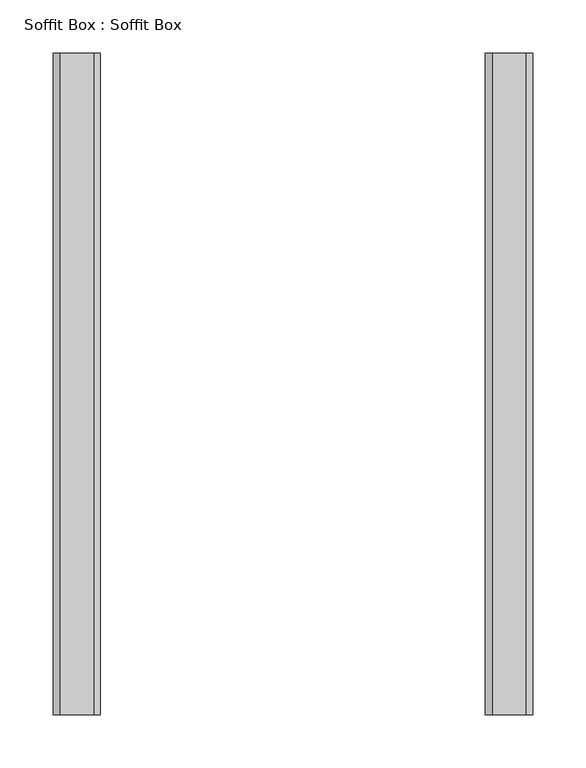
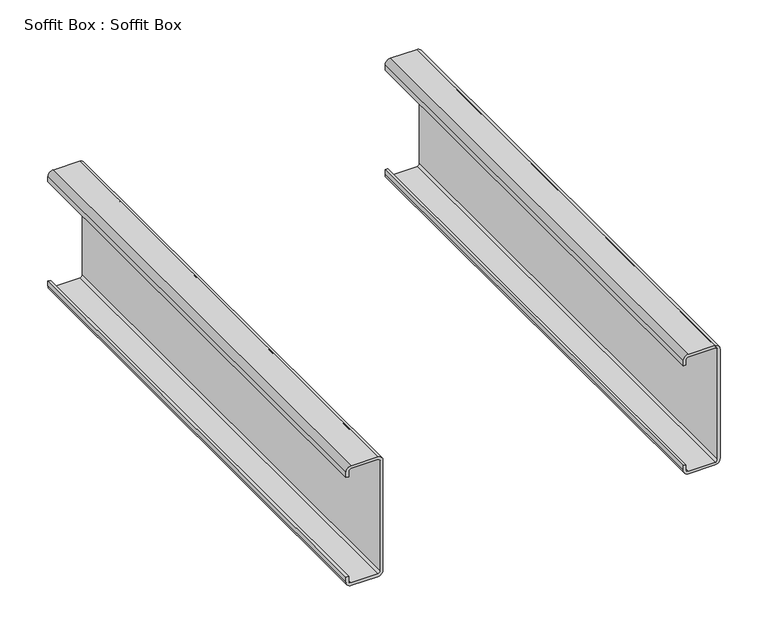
"""IFC4 building model written with IfcOpenShell, lengths in millimetres: proxy geometry, Soffit Box : Soffit Box."""

from ifc_helpers import new_model, si_unit, point, frame, frame_2d, origin, place, context, project, spatial, polyline, circle_curve, trimmed, segment, composite_curve, outline, extrude, source, transform, mapped, element, save


def soffit_box_soffit_box_c2691520(model_context):
    return source(origin(), model_context, "Body", "SweptSolid", [
        extrude(outline(composite_curve([segment(polyline([(73.025, 26489.1726773), (73.025, 26492.3526773), (79.7929713, 26492.3526773)]), True, "CONTINUOUS"), segment(trimmed(circle_curve(frame_2d((79.375, 26495.5226773)), 3.1974365), [point((79.7929713, 26492.3526773))], [point((82.545, 26495.104706))], True, "CARTESIAN"), True, "CONTINUOUS"), segment(polyline([(82.545, 26495.104706), (82.545, 26527.7406486)]), True, "CONTINUOUS"), segment(trimmed(circle_curve(frame_2d((79.375, 26527.3226773)), 3.1974365), [point((82.545, 26527.7406486))], [point((79.7929713, 26530.4926773))], True, "CARTESIAN"), True, "CONTINUOUS"), segment(polyline([(79.7929713, 26530.4926773), (-60.7429713, 26530.4926773)]), True, "CONTINUOUS"), segment(trimmed(circle_curve(frame_2d((-60.325, 26527.3226773)), 3.1974365), [point((-60.7429713, 26530.4926773))], [point((-63.495, 26527.7406486))], True, "CARTESIAN"), True, "CONTINUOUS"), segment(polyline([(-63.495, 26527.7406486), (-63.495, 26495.104706)]), True, "CONTINUOUS"), segment(trimmed(circle_curve(frame_2d((-60.325, 26495.5226773)), 3.1974365), [point((-63.495, 26495.104706))], [point((-60.7429713, 26492.3526773))], True, "CARTESIAN"), True, "CONTINUOUS"), segment(polyline([(-60.7429713, 26492.3526773), (-53.975, 26492.3526773), (-53.975, 26489.1726773), (-60.325, 26489.1726773)]), True, "CONTINUOUS"), segment(trimmed(circle_curve(frame_2d((-60.325, 26495.5226773)), 6.35), [point((-60.325, 26489.1726773))], [point((-66.675, 26495.5226773))], False, "CARTESIAN"), True, "CONTINUOUS"), segment(polyline([(-66.675, 26495.5226773), (-66.675, 26527.3226773)]), True, "CONTINUOUS"), segment(trimmed(circle_curve(frame_2d((-60.325, 26527.3226773)), 6.35), [point((-66.675, 26527.3226773))], [point((-60.325, 26533.6726773))], False, "CARTESIAN"), True, "CONTINUOUS"), segment(polyline([(-60.325, 26533.6726773), (79.375, 26533.6726773)]), True, "CONTINUOUS"), segment(trimmed(circle_curve(frame_2d((79.375, 26527.3226773)), 6.35), [point((79.375, 26533.6726773))], [point((85.725, 26527.3226773))], False, "CARTESIAN"), True, "CONTINUOUS"), segment(polyline([(85.725, 26527.3226773), (85.725, 26495.5226773)]), True, "CONTINUOUS"), segment(trimmed(circle_curve(frame_2d((79.375, 26495.5226773)), 6.35), [point((85.725, 26495.5226773))], [point((79.375, 26489.1726773))], False, "CARTESIAN"), True, "CONTINUOUS"), segment(polyline([(79.375, 26489.1726773), (73.025, 26489.1726773)]), True, "CONTINUOUS")], self_intersect=False)), frame((0.0, 808.6066297, 0.0), z_axis=(0.0, 1.0, 0.0), x_axis=(0.0, 0.0, 1.0)), (0.0, 0.0, 1.0), 622.3),
        extrude(outline(composite_curve([segment(polyline([(73.025, 26895.5726773), (73.025, 26898.7526773), (79.7929713, 26898.7526773)]), True, "CONTINUOUS"), segment(trimmed(circle_curve(frame_2d((79.375, 26901.9226773)), 3.1974365), [point((79.7929713, 26898.7526773))], [point((82.545, 26901.504706))], True, "CARTESIAN"), True, "CONTINUOUS"), segment(polyline([(82.545, 26901.504706), (82.545, 26934.1406486)]), True, "CONTINUOUS"), segment(trimmed(circle_curve(frame_2d((79.375, 26933.7226773)), 3.1974365), [point((82.545, 26934.1406486))], [point((79.7929713, 26936.8926773))], True, "CARTESIAN"), True, "CONTINUOUS"), segment(polyline([(79.7929713, 26936.8926773), (-60.7429713, 26936.8926773)]), True, "CONTINUOUS"), segment(trimmed(circle_curve(frame_2d((-60.325, 26933.7226773)), 3.1974365), [point((-60.7429713, 26936.8926773))], [point((-63.495, 26934.1406486))], True, "CARTESIAN"), True, "CONTINUOUS"), segment(polyline([(-63.495, 26934.1406486), (-63.495, 26901.504706)]), True, "CONTINUOUS"), segment(trimmed(circle_curve(frame_2d((-60.325, 26901.9226773)), 3.1974365), [point((-63.495, 26901.504706))], [point((-60.7429713, 26898.7526773))], True, "CARTESIAN"), True, "CONTINUOUS"), segment(polyline([(-60.7429713, 26898.7526773), (-53.975, 26898.7526773), (-53.975, 26895.5726773), (-60.325, 26895.5726773)]), True, "CONTINUOUS"), segment(trimmed(circle_curve(frame_2d((-60.325, 26901.9226773)), 6.35), [point((-60.325, 26895.5726773))], [point((-66.675, 26901.9226773))], False, "CARTESIAN"), True, "CONTINUOUS"), segment(polyline([(-66.675, 26901.9226773), (-66.675, 26933.7226773)]), True, "CONTINUOUS"), segment(trimmed(circle_curve(frame_2d((-60.325, 26933.7226773)), 6.35), [point((-66.675, 26933.7226773))], [point((-60.325, 26940.0726773))], False, "CARTESIAN"), True, "CONTINUOUS"), segment(polyline([(-60.325, 26940.0726773), (79.375, 26940.0726773)]), True, "CONTINUOUS"), segment(trimmed(circle_curve(frame_2d((79.375, 26933.7226773)), 6.35), [point((79.375, 26940.0726773))], [point((85.725, 26933.7226773))], False, "CARTESIAN"), True, "CONTINUOUS"), segment(polyline([(85.725, 26933.7226773), (85.725, 26901.9226773)]), True, "CONTINUOUS"), segment(trimmed(circle_curve(frame_2d((79.375, 26901.9226773)), 6.35), [point((85.725, 26901.9226773))], [point((79.375, 26895.5726773))], False, "CARTESIAN"), True, "CONTINUOUS"), segment(polyline([(79.375, 26895.5726773), (73.025, 26895.5726773)]), True, "CONTINUOUS")], self_intersect=False)), frame((0.0, 808.6066297, 0.0), z_axis=(0.0, 1.0, 0.0), x_axis=(0.0, 0.0, 1.0)), (0.0, 0.0, 1.0), 622.3),
    ])


if __name__ == "__main__":
    model = new_model("IFC4")
    model_context = context("Model", 3, world=origin())
    ifc_project = project(units=[si_unit("LENGTHUNIT", "METRE", prefix="MILLI")], contexts=[model_context])
    site = spatial("IfcSite", under=ifc_project)
    building = spatial("IfcBuilding", under=site)
    placement = place(None, origin())
    soffit_box_soffit_box_shape = soffit_box_soffit_box_c2691520(model_context)
    element("IfcBuildingElementProxy", 1, Name="Soffit Box : Soffit Box", ObjectType="Soffit Box : Soffit Box", at=placement, inside=building, context=model_context, shape_type="MappedRepresentation", body=[
        mapped(soffit_box_soffit_box_shape, transform((0.0, 0.0, 0.0), x_axis=(1.0, 0.0, 0.0), y_axis=(0.0, 1.0, 0.0), z_axis=(0.0, 0.0, 1.0))),
    ])
    save(model, "model.ifc")
